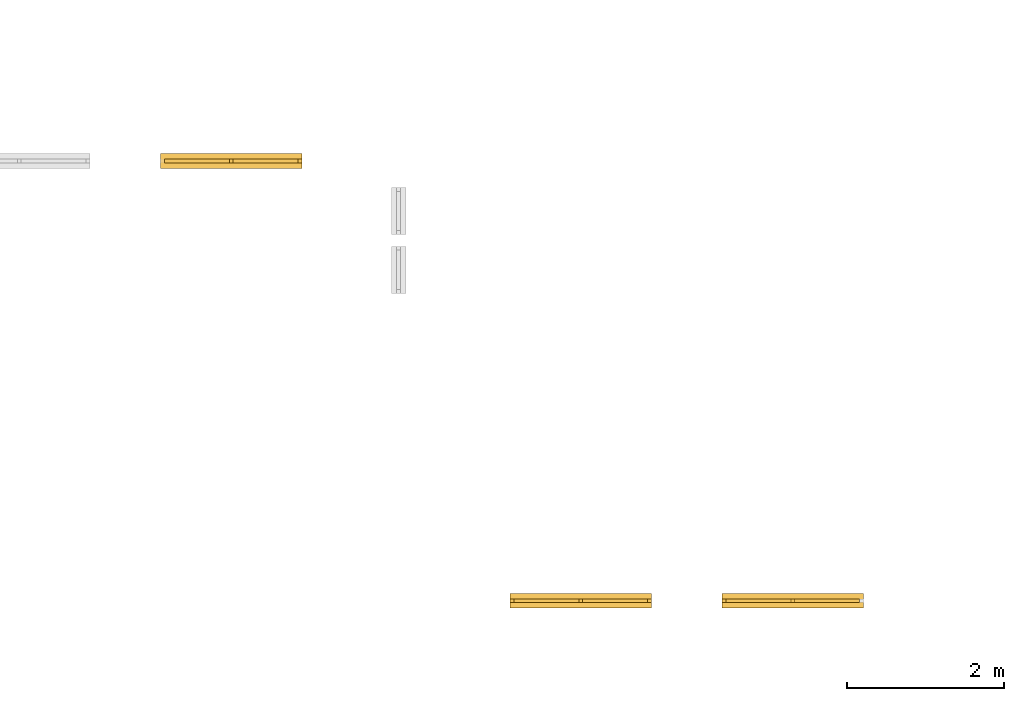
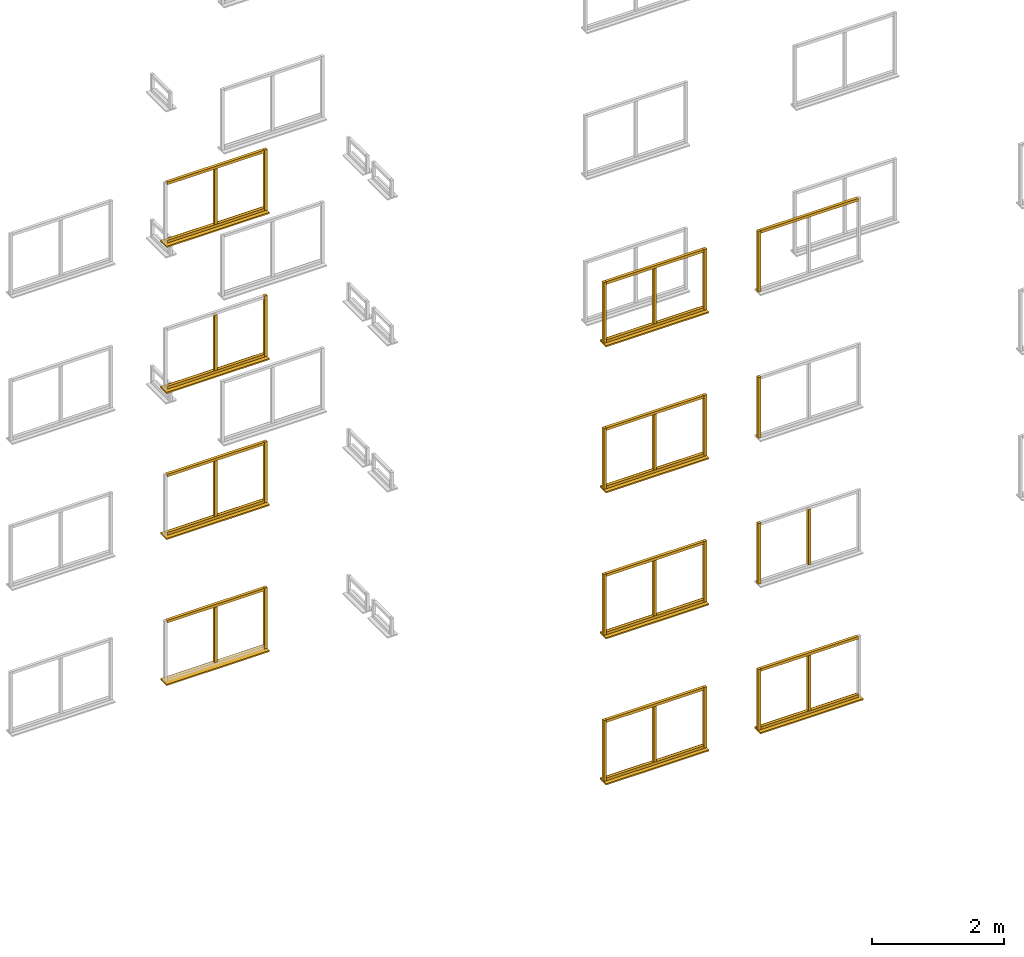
# Not in any storey, part 12 of 22: 52 windows.
"""IFC2X3 model written with IfcOpenShell, lengths in metres."""

from ifc_helpers import new_model, si_unit, frame, origin, place, context, project, faceted_brep, element, save


model = new_model("IFC2X3")

# Units and contexts
model_context = context("Model", 3, precision=1e-06, world=origin())
ifc_project = project(units=[si_unit("LENGTHUNIT", "METRE"), si_unit("PLANEANGLEUNIT", "RADIAN")], contexts=[model_context])

# Windows
placement = place(None, origin())
window_1_placement = place(placement, frame((43.72499999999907, -5.698422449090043, 3.725000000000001), z_axis=(0.0, 0.0, 1.0), x_axis=(1.0, 0.0, 0.0)))
element("IfcWindow", 1, at=window_1_placement, Name="leftFrame", context=model_context, shape_type="Brep", body=[
    faceted_brep([(0.0, 0.05, 0.0), (0.05, 0.05, 0.0), (0.05, 0.0, 0.0), (0.0, 0.0, 0.0), (0.05, 0.0, 1.125), (0.05, 0.05, 1.125), (0.0, 0.05, 1.125), (0.0, 0.0, 1.125), (0.0, 0.05, 0.0), (0.0, 0.0, 0.0), (0.0, 0.0, 1.125), (0.0, 0.05, 1.125), (0.05, 0.05, 0.0), (0.0, 0.05, 0.0), (0.0, 0.05, 1.125), (0.05, 0.05, 1.125), (0.05, 0.0, 0.0), (0.05, 0.05, 0.0), (0.05, 0.05, 1.125), (0.05, 0.0, 1.125), (0.0, 0.0, 0.0), (0.05, 0.0, 0.0), (0.05, 0.0, 1.125), (0.0, 0.0, 1.125)], [[[0, 1, 2, 3]], [[4, 5, 6, 7]], [[8, 9, 10, 11]], [[12, 13, 14, 15]], [[16, 17, 18, 19]], [[20, 21, 22, 23]]]),
])
window_2_placement = place(placement, frame((44.59999999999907, -5.698422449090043, 3.775000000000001), z_axis=(0.0, 0.0, 1.0), x_axis=(1.0, 0.0, 0.0)))
element("IfcWindow", 2, at=window_2_placement, Name="verticalBar", context=model_context, shape_type="Brep", body=[
    faceted_brep([(0.0, 0.05, 0.0), (0.05, 0.05, 0.0), (0.05, 0.0, 0.0), (0.0, 0.0, 0.0), (0.05, 0.0, 1.025), (0.05, 0.05, 1.025), (0.0, 0.05, 1.025), (0.0, 0.0, 1.025), (0.0, 0.05, 0.0), (0.0, 0.0, 0.0), (0.0, 0.0, 1.025), (0.0, 0.05, 1.025), (0.05, 0.05, 0.0), (0.0, 0.05, 0.0), (0.0, 0.05, 1.025), (0.05, 0.05, 1.025), (0.05, 0.0, 0.0), (0.05, 0.05, 0.0), (0.05, 0.05, 1.025), (0.05, 0.0, 1.025), (0.0, 0.0, 0.0), (0.05, 0.0, 0.0), (0.05, 0.0, 1.025), (0.0, 0.0, 1.025)], [[[0, 1, 2, 3]], [[4, 5, 6, 7]], [[8, 9, 10, 11]], [[12, 13, 14, 15]], [[16, 17, 18, 19]], [[20, 21, 22, 23]]]),
])
for number, where, z_axis, x_axis, name in (
    (3, (41.07499999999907, -5.698422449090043, 4.800000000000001), (0.0, 0.0, 1.0), (1.0, 0.0, 0.0), "topFrame"),
    (4, (41.07499999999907, -5.698422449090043, 3.725000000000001), (0.0, 0.0, 1.0), (1.0, 0.0, 0.0), "bottomFrame"),
):
    element("IfcWindow", number, at=place(placement, frame(where, z_axis=z_axis, x_axis=x_axis)), Name=name, context=model_context, shape_type="Brep", body=[
        faceted_brep([(0.0, 0.05, 0.0), (1.7, 0.05, 0.0), (1.7, 0.0, 0.0), (0.0, 0.0, 0.0), (1.7, 0.0, 0.05), (1.7, 0.05, 0.05), (0.0, 0.05, 0.05), (0.0, 0.0, 0.05), (0.0, 0.05, 0.0), (0.0, 0.0, 0.0), (0.0, 0.0, 0.05), (0.0, 0.05, 0.05), (1.7, 0.05, 0.0), (0.0, 0.05, 0.0), (0.0, 0.05, 0.05), (1.7, 0.05, 0.05), (1.7, 0.0, 0.0), (1.7, 0.05, 0.0), (1.7, 0.05, 0.05), (1.7, 0.0, 0.05), (0.0, 0.0, 0.0), (1.7, 0.0, 0.0), (1.7, 0.0, 0.05), (0.0, 0.0, 0.05)], [[[0, 1, 2, 3]], [[4, 5, 6, 7]], [[8, 9, 10, 11]], [[12, 13, 14, 15]], [[16, 17, 18, 19]], [[20, 21, 22, 23]]]),
    ])
window_3_placement = place(placement, frame((41.899999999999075, -5.698422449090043, 3.775000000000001), z_axis=(0.0, 0.0, 1.0), x_axis=(1.0, 0.0, 0.0)))
element("IfcWindow", 5, at=window_3_placement, Name="verticalBar", context=model_context, shape_type="Brep", body=[
    faceted_brep([(0.0, 0.05, 0.0), (0.05, 0.05, 0.0), (0.05, 0.0, 0.0), (0.0, 0.0, 0.0), (0.05, 0.0, 1.025), (0.05, 0.05, 1.025), (0.0, 0.05, 1.025), (0.0, 0.0, 1.025), (0.0, 0.05, 0.0), (0.0, 0.0, 0.0), (0.0, 0.0, 1.025), (0.0, 0.05, 1.025), (0.05, 0.05, 0.0), (0.0, 0.05, 0.0), (0.0, 0.05, 1.025), (0.05, 0.05, 1.025), (0.05, 0.0, 0.0), (0.05, 0.05, 0.0), (0.05, 0.05, 1.025), (0.05, 0.0, 1.025), (0.0, 0.0, 0.0), (0.05, 0.0, 0.0), (0.05, 0.0, 1.025), (0.0, 0.0, 1.025)], [[[0, 1, 2, 3]], [[4, 5, 6, 7]], [[8, 9, 10, 11]], [[12, 13, 14, 15]], [[16, 17, 18, 19]], [[20, 21, 22, 23]]]),
])
for number, where, z_axis, x_axis, name in (
    (6, (41.024999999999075, -5.698422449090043, 9.125000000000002), (0.0, 0.0, 1.0), (1.0, 0.0, 0.0), "leftFrame"),
    (7, (41.024999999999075, -5.698422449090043, 3.725000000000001), (0.0, 0.0, 1.0), (1.0, 0.0, 0.0), "leftFrame"),
):
    element("IfcWindow", number, at=place(placement, frame(where, z_axis=z_axis, x_axis=x_axis)), Name=name, context=model_context, shape_type="Brep", body=[
        faceted_brep([(0.0, 0.05, 0.0), (0.05, 0.05, 0.0), (0.05, 0.0, 0.0), (0.0, 0.0, 0.0), (0.05, 0.0, 1.125), (0.05, 0.05, 1.125), (0.0, 0.05, 1.125), (0.0, 0.0, 1.125), (0.0, 0.05, 0.0), (0.0, 0.0, 0.0), (0.0, 0.0, 1.125), (0.0, 0.05, 1.125), (0.05, 0.05, 0.0), (0.0, 0.05, 0.0), (0.0, 0.05, 1.125), (0.05, 0.05, 1.125), (0.05, 0.0, 0.0), (0.05, 0.05, 0.0), (0.05, 0.05, 1.125), (0.05, 0.0, 1.125), (0.0, 0.0, 0.0), (0.05, 0.0, 0.0), (0.05, 0.0, 1.125), (0.0, 0.0, 1.125)], [[[0, 1, 2, 3]], [[4, 5, 6, 7]], [[8, 9, 10, 11]], [[12, 13, 14, 15]], [[16, 17, 18, 19]], [[20, 21, 22, 23]]]),
    ])
window_4_placement = place(placement, frame((41.024999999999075, -5.766922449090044, 3.700000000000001), z_axis=(0.0, 0.0, 1.0), x_axis=(1.0, 0.0, 0.0)))
element("IfcWindow", 8, at=window_4_placement, Name="windowSill", context=model_context, shape_type="Brep", body=[
    faceted_brep([(0.0, 0.187, 0.0), (1.8, 0.187, 0.0), (1.8, 0.0, 0.0), (0.0, 0.0, 0.0), (1.8, 0.0, 0.025), (1.8, 0.187, 0.025), (0.0, 0.187, 0.025), (0.0, 0.0, 0.025), (0.0, 0.187, 0.0), (0.0, 0.0, 0.0), (0.0, 0.0, 0.025), (0.0, 0.187, 0.025), (1.8, 0.187, 0.0), (0.0, 0.187, 0.0), (0.0, 0.187, 0.025), (1.8, 0.187, 0.025), (1.8, 0.0, 0.0), (1.8, 0.187, 0.0), (1.8, 0.187, 0.025), (1.8, 0.0, 0.025), (0.0, 0.0, 0.0), (1.8, 0.0, 0.0), (1.8, 0.0, 0.025), (0.0, 0.0, 0.025)], [[[0, 1, 2, 3]], [[4, 5, 6, 7]], [[8, 9, 10, 11]], [[12, 13, 14, 15]], [[16, 17, 18, 19]], [[20, 21, 22, 23]]]),
])
window_5_placement = place(placement, frame((42.774999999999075, -5.698422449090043, 3.725000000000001), z_axis=(0.0, 0.0, 1.0), x_axis=(1.0, 0.0, 0.0)))
element("IfcWindow", 9, at=window_5_placement, Name="rightFrame", context=model_context, shape_type="Brep", body=[
    faceted_brep([(0.0, 0.05, 0.0), (0.05, 0.05, 0.0), (0.05, 0.0, 0.0), (0.0, 0.0, 0.0), (0.05, 0.0, 1.125), (0.05, 0.05, 1.125), (0.0, 0.05, 1.125), (0.0, 0.0, 1.125), (0.0, 0.05, 0.0), (0.0, 0.0, 0.0), (0.0, 0.0, 1.125), (0.0, 0.05, 1.125), (0.05, 0.05, 0.0), (0.0, 0.05, 0.0), (0.0, 0.05, 1.125), (0.05, 0.05, 1.125), (0.05, 0.0, 0.0), (0.05, 0.05, 0.0), (0.05, 0.05, 1.125), (0.05, 0.0, 1.125), (0.0, 0.0, 0.0), (0.05, 0.0, 0.0), (0.05, 0.0, 1.125), (0.0, 0.0, 1.125)], [[[0, 1, 2, 3]], [[4, 5, 6, 7]], [[8, 9, 10, 11]], [[12, 13, 14, 15]], [[16, 17, 18, 19]], [[20, 21, 22, 23]]]),
])
window_6_placement = place(placement, frame((44.59999999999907, -5.698422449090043, 1.075), z_axis=(0.0, 0.0, 1.0), x_axis=(1.0, 0.0, 0.0)))
element("IfcWindow", 10, at=window_6_placement, Name="verticalBar", context=model_context, shape_type="Brep", body=[
    faceted_brep([(0.0, 0.05, 0.0), (0.05, 0.05, 0.0), (0.05, 0.0, 0.0), (0.0, 0.0, 0.0), (0.05, 0.0, 1.025), (0.05, 0.05, 1.025), (0.0, 0.05, 1.025), (0.0, 0.0, 1.025), (0.0, 0.05, 0.0), (0.0, 0.0, 0.0), (0.0, 0.0, 1.025), (0.0, 0.05, 1.025), (0.05, 0.05, 0.0), (0.0, 0.05, 0.0), (0.0, 0.05, 1.025), (0.05, 0.05, 1.025), (0.05, 0.0, 0.0), (0.05, 0.05, 0.0), (0.05, 0.05, 1.025), (0.05, 0.0, 1.025), (0.0, 0.0, 0.0), (0.05, 0.0, 0.0), (0.05, 0.0, 1.025), (0.0, 0.0, 1.025)], [[[0, 1, 2, 3]], [[4, 5, 6, 7]], [[8, 9, 10, 11]], [[12, 13, 14, 15]], [[16, 17, 18, 19]], [[20, 21, 22, 23]]]),
])
window_7_placement = place(placement, frame((41.07499999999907, -5.698422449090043, 1.025), z_axis=(0.0, 0.0, 1.0), x_axis=(1.0, 0.0, 0.0)))
element("IfcWindow", 11, at=window_7_placement, Name="bottomFrame", context=model_context, shape_type="Brep", body=[
    faceted_brep([(0.0, 0.05, 0.0), (1.7, 0.05, 0.0), (1.7, 0.0, 0.0), (0.0, 0.0, 0.0), (1.7, 0.0, 0.05), (1.7, 0.05, 0.05), (0.0, 0.05, 0.05), (0.0, 0.0, 0.05), (0.0, 0.05, 0.0), (0.0, 0.0, 0.0), (0.0, 0.0, 0.05), (0.0, 0.05, 0.05), (1.7, 0.05, 0.0), (0.0, 0.05, 0.0), (0.0, 0.05, 0.05), (1.7, 0.05, 0.05), (1.7, 0.0, 0.0), (1.7, 0.05, 0.0), (1.7, 0.05, 0.05), (1.7, 0.0, 0.05), (0.0, 0.0, 0.0), (1.7, 0.0, 0.0), (1.7, 0.0, 0.05), (0.0, 0.0, 0.05)], [[[0, 1, 2, 3]], [[4, 5, 6, 7]], [[8, 9, 10, 11]], [[12, 13, 14, 15]], [[16, 17, 18, 19]], [[20, 21, 22, 23]]]),
])
for number, where, z_axis, x_axis, name in (
    (12, (41.024999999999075, -5.698422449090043, 1.025), (0.0, 0.0, 1.0), (1.0, 0.0, 0.0), "leftFrame"),
    (13, (42.774999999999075, -5.698422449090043, 1.025), (0.0, 0.0, 1.0), (1.0, 0.0, 0.0), "rightFrame"),
):
    element("IfcWindow", number, at=place(placement, frame(where, z_axis=z_axis, x_axis=x_axis)), Name=name, context=model_context, shape_type="Brep", body=[
        faceted_brep([(0.0, 0.05, 0.0), (0.05, 0.05, 0.0), (0.05, 0.0, 0.0), (0.0, 0.0, 0.0), (0.05, 0.0, 1.125), (0.05, 0.05, 1.125), (0.0, 0.05, 1.125), (0.0, 0.0, 1.125), (0.0, 0.05, 0.0), (0.0, 0.0, 0.0), (0.0, 0.0, 1.125), (0.0, 0.05, 1.125), (0.05, 0.05, 0.0), (0.0, 0.05, 0.0), (0.0, 0.05, 1.125), (0.05, 0.05, 1.125), (0.05, 0.0, 0.0), (0.05, 0.05, 0.0), (0.05, 0.05, 1.125), (0.05, 0.0, 1.125), (0.0, 0.0, 0.0), (0.05, 0.0, 0.0), (0.05, 0.0, 1.125), (0.0, 0.0, 1.125)], [[[0, 1, 2, 3]], [[4, 5, 6, 7]], [[8, 9, 10, 11]], [[12, 13, 14, 15]], [[16, 17, 18, 19]], [[20, 21, 22, 23]]]),
    ])
window_8_placement = place(placement, frame((41.024999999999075, -5.766922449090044, 1.0), z_axis=(0.0, 0.0, 1.0), x_axis=(1.0, 0.0, 0.0)))
element("IfcWindow", 14, at=window_8_placement, Name="windowSill", context=model_context, shape_type="Brep", body=[
    faceted_brep([(0.0, 0.187, 0.0), (1.8, 0.187, 0.0), (1.8, 0.0, 0.0), (0.0, 0.0, 0.0), (1.8, 0.0, 0.025), (1.8, 0.187, 0.025), (0.0, 0.187, 0.025), (0.0, 0.0, 0.025), (0.0, 0.187, 0.0), (0.0, 0.0, 0.0), (0.0, 0.0, 0.025), (0.0, 0.187, 0.025), (1.8, 0.187, 0.0), (0.0, 0.187, 0.0), (0.0, 0.187, 0.025), (1.8, 0.187, 0.025), (1.8, 0.0, 0.0), (1.8, 0.187, 0.0), (1.8, 0.187, 0.025), (1.8, 0.0, 0.025), (0.0, 0.0, 0.0), (1.8, 0.0, 0.0), (1.8, 0.0, 0.025), (0.0, 0.0, 0.025)], [[[0, 1, 2, 3]], [[4, 5, 6, 7]], [[8, 9, 10, 11]], [[12, 13, 14, 15]], [[16, 17, 18, 19]], [[20, 21, 22, 23]]]),
])
window_9_placement = place(placement, frame((41.899999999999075, -5.698422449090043, 1.075), z_axis=(0.0, 0.0, 1.0), x_axis=(1.0, 0.0, 0.0)))
element("IfcWindow", 15, at=window_9_placement, Name="verticalBar", context=model_context, shape_type="Brep", body=[
    faceted_brep([(0.0, 0.05, 0.0), (0.05, 0.05, 0.0), (0.05, 0.0, 0.0), (0.0, 0.0, 0.0), (0.05, 0.0, 1.025), (0.05, 0.05, 1.025), (0.0, 0.05, 1.025), (0.0, 0.0, 1.025), (0.0, 0.05, 0.0), (0.0, 0.0, 0.0), (0.0, 0.0, 1.025), (0.0, 0.05, 1.025), (0.05, 0.05, 0.0), (0.0, 0.05, 0.0), (0.0, 0.05, 1.025), (0.05, 0.05, 1.025), (0.05, 0.0, 0.0), (0.05, 0.05, 0.0), (0.05, 0.05, 1.025), (0.05, 0.0, 1.025), (0.0, 0.0, 0.0), (0.05, 0.0, 0.0), (0.05, 0.0, 1.025), (0.0, 0.0, 1.025)], [[[0, 1, 2, 3]], [[4, 5, 6, 7]], [[8, 9, 10, 11]], [[12, 13, 14, 15]], [[16, 17, 18, 19]], [[20, 21, 22, 23]]]),
])
for number, where, z_axis, x_axis, name in (
    (16, (41.07499999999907, -5.698422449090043, 2.100000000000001), (0.0, 0.0, 1.0), (1.0, 0.0, 0.0), "topFrame"),
    (17, (43.77499999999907, -5.698422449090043, 1.025), (0.0, 0.0, 1.0), (1.0, 0.0, 0.0), "bottomFrame"),
    (18, (43.77499999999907, -5.698422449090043, 2.100000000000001), (0.0, 0.0, 1.0), (1.0, 0.0, 0.0), "topFrame"),
):
    element("IfcWindow", number, at=place(placement, frame(where, z_axis=z_axis, x_axis=x_axis)), Name=name, context=model_context, shape_type="Brep", body=[
        faceted_brep([(0.0, 0.05, 0.0), (1.7, 0.05, 0.0), (1.7, 0.0, 0.0), (0.0, 0.0, 0.0), (1.7, 0.0, 0.05), (1.7, 0.05, 0.05), (0.0, 0.05, 0.05), (0.0, 0.0, 0.05), (0.0, 0.05, 0.0), (0.0, 0.0, 0.0), (0.0, 0.0, 0.05), (0.0, 0.05, 0.05), (1.7, 0.05, 0.0), (0.0, 0.05, 0.0), (0.0, 0.05, 0.05), (1.7, 0.05, 0.05), (1.7, 0.0, 0.0), (1.7, 0.05, 0.0), (1.7, 0.05, 0.05), (1.7, 0.0, 0.05), (0.0, 0.0, 0.0), (1.7, 0.0, 0.0), (1.7, 0.0, 0.05), (0.0, 0.0, 0.05)], [[[0, 1, 2, 3]], [[4, 5, 6, 7]], [[8, 9, 10, 11]], [[12, 13, 14, 15]], [[16, 17, 18, 19]], [[20, 21, 22, 23]]]),
    ])
window_10_placement = place(placement, frame((43.72499999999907, -5.698422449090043, 1.025), z_axis=(0.0, 0.0, 1.0), x_axis=(1.0, 0.0, 0.0)))
element("IfcWindow", 19, at=window_10_placement, Name="leftFrame", context=model_context, shape_type="Brep", body=[
    faceted_brep([(0.0, 0.05, 0.0), (0.05, 0.05, 0.0), (0.05, 0.0, 0.0), (0.0, 0.0, 0.0), (0.05, 0.0, 1.125), (0.05, 0.05, 1.125), (0.0, 0.05, 1.125), (0.0, 0.0, 1.125), (0.0, 0.05, 0.0), (0.0, 0.0, 0.0), (0.0, 0.0, 1.125), (0.0, 0.05, 1.125), (0.05, 0.05, 0.0), (0.0, 0.05, 0.0), (0.0, 0.05, 1.125), (0.05, 0.05, 1.125), (0.05, 0.0, 0.0), (0.05, 0.05, 0.0), (0.05, 0.05, 1.125), (0.05, 0.0, 1.125), (0.0, 0.0, 0.0), (0.05, 0.0, 0.0), (0.05, 0.0, 1.125), (0.0, 0.0, 1.125)], [[[0, 1, 2, 3]], [[4, 5, 6, 7]], [[8, 9, 10, 11]], [[12, 13, 14, 15]], [[16, 17, 18, 19]], [[20, 21, 22, 23]]]),
])
for number, where, z_axis, x_axis, name in (
    (20, (43.72499999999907, -5.766922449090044, 1.0), (0.0, 0.0, 1.0), (1.0, 0.0, 0.0), "windowSill"),
    (21, (36.57500054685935, -0.166751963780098, 6.4), (0.0, 0.0, 1.0), (1.0, 0.0, 0.0), "windowSill"),
):
    element("IfcWindow", number, at=place(placement, frame(where, z_axis=z_axis, x_axis=x_axis)), Name=name, context=model_context, shape_type="Brep", body=[
        faceted_brep([(0.0, 0.187, 0.0), (1.8, 0.187, 0.0), (1.8, 0.0, 0.0), (0.0, 0.0, 0.0), (1.8, 0.0, 0.025), (1.8, 0.187, 0.025), (0.0, 0.187, 0.025), (0.0, 0.0, 0.025), (0.0, 0.187, 0.0), (0.0, 0.0, 0.0), (0.0, 0.0, 0.025), (0.0, 0.187, 0.025), (1.8, 0.187, 0.0), (0.0, 0.187, 0.0), (0.0, 0.187, 0.025), (1.8, 0.187, 0.025), (1.8, 0.0, 0.0), (1.8, 0.187, 0.0), (1.8, 0.187, 0.025), (1.8, 0.0, 0.025), (0.0, 0.0, 0.0), (1.8, 0.0, 0.0), (1.8, 0.0, 0.025), (0.0, 0.0, 0.025)], [[[0, 1, 2, 3]], [[4, 5, 6, 7]], [[8, 9, 10, 11]], [[12, 13, 14, 15]], [[16, 17, 18, 19]], [[20, 21, 22, 23]]]),
    ])
window_11_placement = place(placement, frame((37.45000054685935, -0.098251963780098, 6.475000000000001), z_axis=(0.0, 0.0, 1.0), x_axis=(1.0, 0.0, 0.0)))
element("IfcWindow", 22, at=window_11_placement, Name="verticalBar", context=model_context, shape_type="Brep", body=[
    faceted_brep([(0.0, 0.05, 0.0), (0.05, 0.05, 0.0), (0.05, 0.0, 0.0), (0.0, 0.0, 0.0), (0.05, 0.0, 1.025), (0.05, 0.05, 1.025), (0.0, 0.05, 1.025), (0.0, 0.0, 1.025), (0.0, 0.05, 0.0), (0.0, 0.0, 0.0), (0.0, 0.0, 1.025), (0.0, 0.05, 1.025), (0.05, 0.05, 0.0), (0.0, 0.05, 0.0), (0.0, 0.05, 1.025), (0.05, 0.05, 1.025), (0.05, 0.0, 0.0), (0.05, 0.05, 0.0), (0.05, 0.05, 1.025), (0.05, 0.0, 1.025), (0.0, 0.0, 0.0), (0.05, 0.0, 0.0), (0.05, 0.0, 1.025), (0.0, 0.0, 1.025)], [[[0, 1, 2, 3]], [[4, 5, 6, 7]], [[8, 9, 10, 11]], [[12, 13, 14, 15]], [[16, 17, 18, 19]], [[20, 21, 22, 23]]]),
])
window_12_placement = place(placement, frame((38.32500054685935, -0.098251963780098, 6.425000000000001), z_axis=(0.0, 0.0, 1.0), x_axis=(1.0, 0.0, 0.0)))
element("IfcWindow", 23, at=window_12_placement, Name="rightFrame", context=model_context, shape_type="Brep", body=[
    faceted_brep([(0.0, 0.05, 0.0), (0.05, 0.05, 0.0), (0.05, 0.0, 0.0), (0.0, 0.0, 0.0), (0.05, 0.0, 1.125), (0.05, 0.05, 1.125), (0.0, 0.05, 1.125), (0.0, 0.0, 1.125), (0.0, 0.05, 0.0), (0.0, 0.0, 0.0), (0.0, 0.0, 1.125), (0.0, 0.05, 1.125), (0.05, 0.05, 0.0), (0.0, 0.05, 0.0), (0.0, 0.05, 1.125), (0.05, 0.05, 1.125), (0.05, 0.0, 0.0), (0.05, 0.05, 0.0), (0.05, 0.05, 1.125), (0.05, 0.0, 1.125), (0.0, 0.0, 0.0), (0.05, 0.0, 0.0), (0.05, 0.0, 1.125), (0.0, 0.0, 1.125)], [[[0, 1, 2, 3]], [[4, 5, 6, 7]], [[8, 9, 10, 11]], [[12, 13, 14, 15]], [[16, 17, 18, 19]], [[20, 21, 22, 23]]]),
])
for number, where, z_axis, x_axis, name in (
    (24, (36.62500054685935, -0.098251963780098, 6.425000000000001), (0.0, 0.0, 1.0), (1.0, 0.0, 0.0), "bottomFrame"),
    (25, (36.62500054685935, -0.098251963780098, 9.125000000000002), (0.0, 0.0, 1.0), (1.0, 0.0, 0.0), "bottomFrame"),
    (26, (36.62500054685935, -0.098251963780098, 10.200000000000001), (0.0, 0.0, 1.0), (1.0, 0.0, 0.0), "topFrame"),
):
    element("IfcWindow", number, at=place(placement, frame(where, z_axis=z_axis, x_axis=x_axis)), Name=name, context=model_context, shape_type="Brep", body=[
        faceted_brep([(0.0, 0.05, 0.0), (1.7, 0.05, 0.0), (1.7, 0.0, 0.0), (0.0, 0.0, 0.0), (1.7, 0.0, 0.05), (1.7, 0.05, 0.05), (0.0, 0.05, 0.05), (0.0, 0.0, 0.05), (0.0, 0.05, 0.0), (0.0, 0.0, 0.0), (0.0, 0.0, 0.05), (0.0, 0.05, 0.05), (1.7, 0.05, 0.0), (0.0, 0.05, 0.0), (0.0, 0.05, 0.05), (1.7, 0.05, 0.05), (1.7, 0.0, 0.0), (1.7, 0.05, 0.0), (1.7, 0.05, 0.05), (1.7, 0.0, 0.05), (0.0, 0.0, 0.0), (1.7, 0.0, 0.0), (1.7, 0.0, 0.05), (0.0, 0.0, 0.05)], [[[0, 1, 2, 3]], [[4, 5, 6, 7]], [[8, 9, 10, 11]], [[12, 13, 14, 15]], [[16, 17, 18, 19]], [[20, 21, 22, 23]]]),
    ])
window_13_placement = place(placement, frame((38.32500054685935, -0.098251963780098, 9.125000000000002), z_axis=(0.0, 0.0, 1.0), x_axis=(1.0, 0.0, 0.0)))
element("IfcWindow", 27, at=window_13_placement, Name="rightFrame", context=model_context, shape_type="Brep", body=[
    faceted_brep([(0.0, 0.05, 0.0), (0.05, 0.05, 0.0), (0.05, 0.0, 0.0), (0.0, 0.0, 0.0), (0.05, 0.0, 1.125), (0.05, 0.05, 1.125), (0.0, 0.05, 1.125), (0.0, 0.0, 1.125), (0.0, 0.05, 0.0), (0.0, 0.0, 0.0), (0.0, 0.0, 1.125), (0.0, 0.05, 1.125), (0.05, 0.05, 0.0), (0.0, 0.05, 0.0), (0.0, 0.05, 1.125), (0.05, 0.05, 1.125), (0.05, 0.0, 0.0), (0.05, 0.05, 0.0), (0.05, 0.05, 1.125), (0.05, 0.0, 1.125), (0.0, 0.0, 0.0), (0.05, 0.0, 0.0), (0.05, 0.0, 1.125), (0.0, 0.0, 1.125)], [[[0, 1, 2, 3]], [[4, 5, 6, 7]], [[8, 9, 10, 11]], [[12, 13, 14, 15]], [[16, 17, 18, 19]], [[20, 21, 22, 23]]]),
])
for number, where, z_axis, x_axis, name in (
    (28, (36.57500054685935, -0.166751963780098, 9.100000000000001), (0.0, 0.0, 1.0), (1.0, 0.0, 0.0), "windowSill"),
    (29, (41.024999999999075, -5.766922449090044, 9.100000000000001), (0.0, 0.0, 1.0), (1.0, 0.0, 0.0), "windowSill"),
):
    element("IfcWindow", number, at=place(placement, frame(where, z_axis=z_axis, x_axis=x_axis)), Name=name, context=model_context, shape_type="Brep", body=[
        faceted_brep([(0.0, 0.187, 0.0), (1.8, 0.187, 0.0), (1.8, 0.0, 0.0), (0.0, 0.0, 0.0), (1.8, 0.0, 0.025), (1.8, 0.187, 0.025), (0.0, 0.187, 0.025), (0.0, 0.0, 0.025), (0.0, 0.187, 0.0), (0.0, 0.0, 0.0), (0.0, 0.0, 0.025), (0.0, 0.187, 0.025), (1.8, 0.187, 0.0), (0.0, 0.187, 0.0), (0.0, 0.187, 0.025), (1.8, 0.187, 0.025), (1.8, 0.0, 0.0), (1.8, 0.187, 0.0), (1.8, 0.187, 0.025), (1.8, 0.0, 0.025), (0.0, 0.0, 0.0), (1.8, 0.0, 0.0), (1.8, 0.0, 0.025), (0.0, 0.0, 0.025)], [[[0, 1, 2, 3]], [[4, 5, 6, 7]], [[8, 9, 10, 11]], [[12, 13, 14, 15]], [[16, 17, 18, 19]], [[20, 21, 22, 23]]]),
    ])
window_14_placement = place(placement, frame((37.45000054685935, -0.098251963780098, 1.075), z_axis=(0.0, 0.0, 1.0), x_axis=(1.0, 0.0, 0.0)))
element("IfcWindow", 30, at=window_14_placement, Name="verticalBar", context=model_context, shape_type="Brep", body=[
    faceted_brep([(0.0, 0.05, 0.0), (0.05, 0.05, 0.0), (0.05, 0.0, 0.0), (0.0, 0.0, 0.0), (0.05, 0.0, 1.025), (0.05, 0.05, 1.025), (0.0, 0.05, 1.025), (0.0, 0.0, 1.025), (0.0, 0.05, 0.0), (0.0, 0.0, 0.0), (0.0, 0.0, 1.025), (0.0, 0.05, 1.025), (0.05, 0.05, 0.0), (0.0, 0.05, 0.0), (0.0, 0.05, 1.025), (0.05, 0.05, 1.025), (0.05, 0.0, 0.0), (0.05, 0.05, 0.0), (0.05, 0.05, 1.025), (0.05, 0.0, 1.025), (0.0, 0.0, 0.0), (0.05, 0.0, 0.0), (0.05, 0.0, 1.025), (0.0, 0.0, 1.025)], [[[0, 1, 2, 3]], [[4, 5, 6, 7]], [[8, 9, 10, 11]], [[12, 13, 14, 15]], [[16, 17, 18, 19]], [[20, 21, 22, 23]]]),
])
for number, where, z_axis, x_axis, name in (
    (31, (36.62500054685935, -0.098251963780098, 3.725), (0.0, 0.0, 1.0), (1.0, 0.0, 0.0), "bottomFrame"),
    (32, (36.62500054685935, -0.098251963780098, 4.8), (0.0, 0.0, 1.0), (1.0, 0.0, 0.0), "topFrame"),
):
    element("IfcWindow", number, at=place(placement, frame(where, z_axis=z_axis, x_axis=x_axis)), Name=name, context=model_context, shape_type="Brep", body=[
        faceted_brep([(0.0, 0.05, 0.0), (1.7, 0.05, 0.0), (1.7, 0.0, 0.0), (0.0, 0.0, 0.0), (1.7, 0.0, 0.05), (1.7, 0.05, 0.05), (0.0, 0.05, 0.05), (0.0, 0.0, 0.05), (0.0, 0.05, 0.0), (0.0, 0.0, 0.0), (0.0, 0.0, 0.05), (0.0, 0.05, 0.05), (1.7, 0.05, 0.0), (0.0, 0.05, 0.0), (0.0, 0.05, 0.05), (1.7, 0.05, 0.05), (1.7, 0.0, 0.0), (1.7, 0.05, 0.0), (1.7, 0.05, 0.05), (1.7, 0.0, 0.05), (0.0, 0.0, 0.0), (1.7, 0.0, 0.0), (1.7, 0.0, 0.05), (0.0, 0.0, 0.05)], [[[0, 1, 2, 3]], [[4, 5, 6, 7]], [[8, 9, 10, 11]], [[12, 13, 14, 15]], [[16, 17, 18, 19]], [[20, 21, 22, 23]]]),
    ])
window_15_placement = place(placement, frame((38.32500054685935, -0.098251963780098, 3.725), z_axis=(0.0, 0.0, 1.0), x_axis=(1.0, 0.0, 0.0)))
element("IfcWindow", 33, at=window_15_placement, Name="rightFrame", context=model_context, shape_type="Brep", body=[
    faceted_brep([(0.0, 0.05, 0.0), (0.05, 0.05, 0.0), (0.05, 0.0, 0.0), (0.0, 0.0, 0.0), (0.05, 0.0, 1.125), (0.05, 0.05, 1.125), (0.0, 0.05, 1.125), (0.0, 0.0, 1.125), (0.0, 0.05, 0.0), (0.0, 0.0, 0.0), (0.0, 0.0, 1.125), (0.0, 0.05, 1.125), (0.05, 0.05, 0.0), (0.0, 0.05, 0.0), (0.0, 0.05, 1.125), (0.05, 0.05, 1.125), (0.05, 0.0, 0.0), (0.05, 0.05, 0.0), (0.05, 0.05, 1.125), (0.05, 0.0, 1.125), (0.0, 0.0, 0.0), (0.05, 0.0, 0.0), (0.05, 0.0, 1.125), (0.0, 0.0, 1.125)], [[[0, 1, 2, 3]], [[4, 5, 6, 7]], [[8, 9, 10, 11]], [[12, 13, 14, 15]], [[16, 17, 18, 19]], [[20, 21, 22, 23]]]),
])
window_16_placement = place(placement, frame((36.57500054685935, -0.166751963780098, 3.7), z_axis=(0.0, 0.0, 1.0), x_axis=(1.0, 0.0, 0.0)))
element("IfcWindow", 34, at=window_16_placement, Name="windowSill", context=model_context, shape_type="Brep", body=[
    faceted_brep([(0.0, 0.187, 0.0), (1.8, 0.187, 0.0), (1.8, 0.0, 0.0), (0.0, 0.0, 0.0), (1.8, 0.0, 0.025), (1.8, 0.187, 0.025), (0.0, 0.187, 0.025), (0.0, 0.0, 0.025), (0.0, 0.187, 0.0), (0.0, 0.0, 0.0), (0.0, 0.0, 0.025), (0.0, 0.187, 0.025), (1.8, 0.187, 0.0), (0.0, 0.187, 0.0), (0.0, 0.187, 0.025), (1.8, 0.187, 0.025), (1.8, 0.0, 0.0), (1.8, 0.187, 0.0), (1.8, 0.187, 0.025), (1.8, 0.0, 0.025), (0.0, 0.0, 0.0), (1.8, 0.0, 0.0), (1.8, 0.0, 0.025), (0.0, 0.0, 0.025)], [[[0, 1, 2, 3]], [[4, 5, 6, 7]], [[8, 9, 10, 11]], [[12, 13, 14, 15]], [[16, 17, 18, 19]], [[20, 21, 22, 23]]]),
])
window_17_placement = place(placement, frame((37.45000054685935, -0.098251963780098, 3.775), z_axis=(0.0, 0.0, 1.0), x_axis=(1.0, 0.0, 0.0)))
element("IfcWindow", 35, at=window_17_placement, Name="verticalBar", context=model_context, shape_type="Brep", body=[
    faceted_brep([(0.0, 0.05, 0.0), (0.05, 0.05, 0.0), (0.05, 0.0, 0.0), (0.0, 0.0, 0.0), (0.05, 0.0, 1.025), (0.05, 0.05, 1.025), (0.0, 0.05, 1.025), (0.0, 0.0, 1.025), (0.0, 0.05, 0.0), (0.0, 0.0, 0.0), (0.0, 0.0, 1.025), (0.0, 0.05, 1.025), (0.05, 0.05, 0.0), (0.0, 0.05, 0.0), (0.0, 0.05, 1.025), (0.05, 0.05, 1.025), (0.05, 0.0, 0.0), (0.05, 0.05, 0.0), (0.05, 0.05, 1.025), (0.05, 0.0, 1.025), (0.0, 0.0, 0.0), (0.05, 0.0, 0.0), (0.05, 0.0, 1.025), (0.0, 0.0, 1.025)], [[[0, 1, 2, 3]], [[4, 5, 6, 7]], [[8, 9, 10, 11]], [[12, 13, 14, 15]], [[16, 17, 18, 19]], [[20, 21, 22, 23]]]),
])
window_18_placement = place(placement, frame((42.774999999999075, -5.698422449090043, 9.125000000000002), z_axis=(0.0, 0.0, 1.0), x_axis=(1.0, 0.0, 0.0)))
element("IfcWindow", 36, at=window_18_placement, Name="rightFrame", context=model_context, shape_type="Brep", body=[
    faceted_brep([(0.0, 0.05, 0.0), (0.05, 0.05, 0.0), (0.05, 0.0, 0.0), (0.0, 0.0, 0.0), (0.05, 0.0, 1.125), (0.05, 0.05, 1.125), (0.0, 0.05, 1.125), (0.0, 0.0, 1.125), (0.0, 0.05, 0.0), (0.0, 0.0, 0.0), (0.0, 0.0, 1.125), (0.0, 0.05, 1.125), (0.05, 0.05, 0.0), (0.0, 0.05, 0.0), (0.0, 0.05, 1.125), (0.05, 0.05, 1.125), (0.05, 0.0, 0.0), (0.05, 0.05, 0.0), (0.05, 0.05, 1.125), (0.05, 0.0, 1.125), (0.0, 0.0, 0.0), (0.05, 0.0, 0.0), (0.05, 0.0, 1.125), (0.0, 0.0, 1.125)], [[[0, 1, 2, 3]], [[4, 5, 6, 7]], [[8, 9, 10, 11]], [[12, 13, 14, 15]], [[16, 17, 18, 19]], [[20, 21, 22, 23]]]),
])
window_19_placement = place(placement, frame((41.899999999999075, -5.698422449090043, 9.175), z_axis=(0.0, 0.0, 1.0), x_axis=(1.0, 0.0, 0.0)))
element("IfcWindow", 37, at=window_19_placement, Name="verticalBar", context=model_context, shape_type="Brep", body=[
    faceted_brep([(0.0, 0.05, 0.0), (0.05, 0.05, 0.0), (0.05, 0.0, 0.0), (0.0, 0.0, 0.0), (0.05, 0.0, 1.025), (0.05, 0.05, 1.025), (0.0, 0.05, 1.025), (0.0, 0.0, 1.025), (0.0, 0.05, 0.0), (0.0, 0.0, 0.0), (0.0, 0.0, 1.025), (0.0, 0.05, 1.025), (0.05, 0.05, 0.0), (0.0, 0.05, 0.0), (0.0, 0.05, 1.025), (0.05, 0.05, 1.025), (0.05, 0.0, 0.0), (0.05, 0.05, 0.0), (0.05, 0.05, 1.025), (0.05, 0.0, 1.025), (0.0, 0.0, 0.0), (0.05, 0.0, 0.0), (0.05, 0.0, 1.025), (0.0, 0.0, 1.025)], [[[0, 1, 2, 3]], [[4, 5, 6, 7]], [[8, 9, 10, 11]], [[12, 13, 14, 15]], [[16, 17, 18, 19]], [[20, 21, 22, 23]]]),
])
window_20_placement = place(placement, frame((36.62500054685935, -0.098251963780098, 2.1), z_axis=(0.0, 0.0, 1.0), x_axis=(1.0, 0.0, 0.0)))
element("IfcWindow", 38, at=window_20_placement, Name="topFrame", context=model_context, shape_type="Brep", body=[
    faceted_brep([(0.0, 0.05, 0.0), (1.7, 0.05, 0.0), (1.7, 0.0, 0.0), (0.0, 0.0, 0.0), (1.7, 0.0, 0.05), (1.7, 0.05, 0.05), (0.0, 0.05, 0.05), (0.0, 0.0, 0.05), (0.0, 0.05, 0.0), (0.0, 0.0, 0.0), (0.0, 0.0, 0.05), (0.0, 0.05, 0.05), (1.7, 0.05, 0.0), (0.0, 0.05, 0.0), (0.0, 0.05, 0.05), (1.7, 0.05, 0.05), (1.7, 0.0, 0.0), (1.7, 0.05, 0.0), (1.7, 0.05, 0.05), (1.7, 0.0, 0.05), (0.0, 0.0, 0.0), (1.7, 0.0, 0.0), (1.7, 0.0, 0.05), (0.0, 0.0, 0.05)], [[[0, 1, 2, 3]], [[4, 5, 6, 7]], [[8, 9, 10, 11]], [[12, 13, 14, 15]], [[16, 17, 18, 19]], [[20, 21, 22, 23]]]),
])
window_21_placement = place(placement, frame((38.32500054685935, -0.098251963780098, 1.025), z_axis=(0.0, 0.0, 1.0), x_axis=(1.0, 0.0, 0.0)))
element("IfcWindow", 39, at=window_21_placement, Name="rightFrame", context=model_context, shape_type="Brep", body=[
    faceted_brep([(0.0, 0.05, 0.0), (0.05, 0.05, 0.0), (0.05, 0.0, 0.0), (0.0, 0.0, 0.0), (0.05, 0.0, 1.125), (0.05, 0.05, 1.125), (0.0, 0.05, 1.125), (0.0, 0.0, 1.125), (0.0, 0.05, 0.0), (0.0, 0.0, 0.0), (0.0, 0.0, 1.125), (0.0, 0.05, 1.125), (0.05, 0.05, 0.0), (0.0, 0.05, 0.0), (0.0, 0.05, 1.125), (0.05, 0.05, 1.125), (0.05, 0.0, 0.0), (0.05, 0.05, 0.0), (0.05, 0.05, 1.125), (0.05, 0.0, 1.125), (0.0, 0.0, 0.0), (0.05, 0.0, 0.0), (0.05, 0.0, 1.125), (0.0, 0.0, 1.125)], [[[0, 1, 2, 3]], [[4, 5, 6, 7]], [[8, 9, 10, 11]], [[12, 13, 14, 15]], [[16, 17, 18, 19]], [[20, 21, 22, 23]]]),
])
for number, where, z_axis, x_axis, name in (
    (40, (36.57500054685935, -0.166751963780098, 1.0), (0.0, 0.0, 1.0), (1.0, 0.0, 0.0), "windowSill"),
    (41, (41.024999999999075, -5.766922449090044, 6.400000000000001), (0.0, 0.0, 1.0), (1.0, 0.0, 0.0), "windowSill"),
):
    element("IfcWindow", number, at=place(placement, frame(where, z_axis=z_axis, x_axis=x_axis)), Name=name, context=model_context, shape_type="Brep", body=[
        faceted_brep([(0.0, 0.187, 0.0), (1.8, 0.187, 0.0), (1.8, 0.0, 0.0), (0.0, 0.0, 0.0), (1.8, 0.0, 0.025), (1.8, 0.187, 0.025), (0.0, 0.187, 0.025), (0.0, 0.0, 0.025), (0.0, 0.187, 0.0), (0.0, 0.0, 0.0), (0.0, 0.0, 0.025), (0.0, 0.187, 0.025), (1.8, 0.187, 0.0), (0.0, 0.187, 0.0), (0.0, 0.187, 0.025), (1.8, 0.187, 0.025), (1.8, 0.0, 0.0), (1.8, 0.187, 0.0), (1.8, 0.187, 0.025), (1.8, 0.0, 0.025), (0.0, 0.0, 0.0), (1.8, 0.0, 0.0), (1.8, 0.0, 0.025), (0.0, 0.0, 0.025)], [[[0, 1, 2, 3]], [[4, 5, 6, 7]], [[8, 9, 10, 11]], [[12, 13, 14, 15]], [[16, 17, 18, 19]], [[20, 21, 22, 23]]]),
    ])
for number, where, z_axis, x_axis, name in (
    (42, (43.77499999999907, -5.698422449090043, 10.200000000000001), (0.0, 0.0, 1.0), (1.0, 0.0, 0.0), "topFrame"),
    (43, (41.07499999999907, -5.698422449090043, 10.200000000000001), (0.0, 0.0, 1.0), (1.0, 0.0, 0.0), "topFrame"),
    (44, (41.07499999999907, -5.698422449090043, 9.125000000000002), (0.0, 0.0, 1.0), (1.0, 0.0, 0.0), "bottomFrame"),
):
    element("IfcWindow", number, at=place(placement, frame(where, z_axis=z_axis, x_axis=x_axis)), Name=name, context=model_context, shape_type="Brep", body=[
        faceted_brep([(0.0, 0.05, 0.0), (1.7, 0.05, 0.0), (1.7, 0.0, 0.0), (0.0, 0.0, 0.0), (1.7, 0.0, 0.05), (1.7, 0.05, 0.05), (0.0, 0.05, 0.05), (0.0, 0.0, 0.05), (0.0, 0.05, 0.0), (0.0, 0.0, 0.0), (0.0, 0.0, 0.05), (0.0, 0.05, 0.05), (1.7, 0.05, 0.0), (0.0, 0.05, 0.0), (0.0, 0.05, 0.05), (1.7, 0.05, 0.05), (1.7, 0.0, 0.0), (1.7, 0.05, 0.0), (1.7, 0.05, 0.05), (1.7, 0.0, 0.05), (0.0, 0.0, 0.0), (1.7, 0.0, 0.0), (1.7, 0.0, 0.05), (0.0, 0.0, 0.05)], [[[0, 1, 2, 3]], [[4, 5, 6, 7]], [[8, 9, 10, 11]], [[12, 13, 14, 15]], [[16, 17, 18, 19]], [[20, 21, 22, 23]]]),
    ])
window_22_placement = place(placement, frame((43.72499999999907, -5.698422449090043, 9.125000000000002), z_axis=(0.0, 0.0, 1.0), x_axis=(1.0, 0.0, 0.0)))
element("IfcWindow", 45, at=window_22_placement, Name="leftFrame", context=model_context, shape_type="Brep", body=[
    faceted_brep([(0.0, 0.05, 0.0), (0.05, 0.05, 0.0), (0.05, 0.0, 0.0), (0.0, 0.0, 0.0), (0.05, 0.0, 1.125), (0.05, 0.05, 1.125), (0.0, 0.05, 1.125), (0.0, 0.0, 1.125), (0.0, 0.05, 0.0), (0.0, 0.0, 0.0), (0.0, 0.0, 1.125), (0.0, 0.05, 1.125), (0.05, 0.05, 0.0), (0.0, 0.05, 0.0), (0.0, 0.05, 1.125), (0.05, 0.05, 1.125), (0.05, 0.0, 0.0), (0.05, 0.05, 0.0), (0.05, 0.05, 1.125), (0.05, 0.0, 1.125), (0.0, 0.0, 0.0), (0.05, 0.0, 0.0), (0.05, 0.0, 1.125), (0.0, 0.0, 1.125)], [[[0, 1, 2, 3]], [[4, 5, 6, 7]], [[8, 9, 10, 11]], [[12, 13, 14, 15]], [[16, 17, 18, 19]], [[20, 21, 22, 23]]]),
])
window_23_placement = place(placement, frame((41.07499999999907, -5.698422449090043, 6.425000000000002), z_axis=(0.0, 0.0, 1.0), x_axis=(1.0, 0.0, 0.0)))
element("IfcWindow", 46, at=window_23_placement, Name="bottomFrame", context=model_context, shape_type="Brep", body=[
    faceted_brep([(0.0, 0.05, 0.0), (1.7, 0.05, 0.0), (1.7, 0.0, 0.0), (0.0, 0.0, 0.0), (1.7, 0.0, 0.05), (1.7, 0.05, 0.05), (0.0, 0.05, 0.05), (0.0, 0.0, 0.05), (0.0, 0.05, 0.0), (0.0, 0.0, 0.0), (0.0, 0.0, 0.05), (0.0, 0.05, 0.05), (1.7, 0.05, 0.0), (0.0, 0.05, 0.0), (0.0, 0.05, 0.05), (1.7, 0.05, 0.05), (1.7, 0.0, 0.0), (1.7, 0.05, 0.0), (1.7, 0.05, 0.05), (1.7, 0.0, 0.05), (0.0, 0.0, 0.0), (1.7, 0.0, 0.0), (1.7, 0.0, 0.05), (0.0, 0.0, 0.05)], [[[0, 1, 2, 3]], [[4, 5, 6, 7]], [[8, 9, 10, 11]], [[12, 13, 14, 15]], [[16, 17, 18, 19]], [[20, 21, 22, 23]]]),
])
for number, where, z_axis, x_axis, name in (
    (47, (43.72499999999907, -5.698422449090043, 6.425000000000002), (0.0, 0.0, 1.0), (1.0, 0.0, 0.0), "leftFrame"),
    (48, (41.024999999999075, -5.698422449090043, 6.425000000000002), (0.0, 0.0, 1.0), (1.0, 0.0, 0.0), "leftFrame"),
):
    element("IfcWindow", number, at=place(placement, frame(where, z_axis=z_axis, x_axis=x_axis)), Name=name, context=model_context, shape_type="Brep", body=[
        faceted_brep([(0.0, 0.05, 0.0), (0.05, 0.05, 0.0), (0.05, 0.0, 0.0), (0.0, 0.0, 0.0), (0.05, 0.0, 1.125), (0.05, 0.05, 1.125), (0.0, 0.05, 1.125), (0.0, 0.0, 1.125), (0.0, 0.05, 0.0), (0.0, 0.0, 0.0), (0.0, 0.0, 1.125), (0.0, 0.05, 1.125), (0.05, 0.05, 0.0), (0.0, 0.05, 0.0), (0.0, 0.05, 1.125), (0.05, 0.05, 1.125), (0.05, 0.0, 0.0), (0.05, 0.05, 0.0), (0.05, 0.05, 1.125), (0.05, 0.0, 1.125), (0.0, 0.0, 0.0), (0.05, 0.0, 0.0), (0.05, 0.0, 1.125), (0.0, 0.0, 1.125)], [[[0, 1, 2, 3]], [[4, 5, 6, 7]], [[8, 9, 10, 11]], [[12, 13, 14, 15]], [[16, 17, 18, 19]], [[20, 21, 22, 23]]]),
    ])
window_24_placement = place(placement, frame((41.07499999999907, -5.698422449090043, 7.500000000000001), z_axis=(0.0, 0.0, 1.0), x_axis=(1.0, 0.0, 0.0)))
element("IfcWindow", 49, at=window_24_placement, Name="topFrame", context=model_context, shape_type="Brep", body=[
    faceted_brep([(0.0, 0.05, 0.0), (1.7, 0.05, 0.0), (1.7, 0.0, 0.0), (0.0, 0.0, 0.0), (1.7, 0.0, 0.05), (1.7, 0.05, 0.05), (0.0, 0.05, 0.05), (0.0, 0.0, 0.05), (0.0, 0.05, 0.0), (0.0, 0.0, 0.0), (0.0, 0.0, 0.05), (0.0, 0.05, 0.05), (1.7, 0.05, 0.0), (0.0, 0.05, 0.0), (0.0, 0.05, 0.05), (1.7, 0.05, 0.05), (1.7, 0.0, 0.0), (1.7, 0.05, 0.0), (1.7, 0.05, 0.05), (1.7, 0.0, 0.05), (0.0, 0.0, 0.0), (1.7, 0.0, 0.0), (1.7, 0.0, 0.05), (0.0, 0.0, 0.05)], [[[0, 1, 2, 3]], [[4, 5, 6, 7]], [[8, 9, 10, 11]], [[12, 13, 14, 15]], [[16, 17, 18, 19]], [[20, 21, 22, 23]]]),
])
for number, where, z_axis, x_axis, name in (
    (50, (37.45000054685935, -0.098251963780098, 9.175), (0.0, 0.0, 1.0), (1.0, 0.0, 0.0), "verticalBar"),
    (51, (41.899999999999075, -5.698422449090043, 6.475000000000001), (0.0, 0.0, 1.0), (1.0, 0.0, 0.0), "verticalBar"),
):
    element("IfcWindow", number, at=place(placement, frame(where, z_axis=z_axis, x_axis=x_axis)), Name=name, context=model_context, shape_type="Brep", body=[
        faceted_brep([(0.0, 0.05, 0.0), (0.05, 0.05, 0.0), (0.05, 0.0, 0.0), (0.0, 0.0, 0.0), (0.05, 0.0, 1.025), (0.05, 0.05, 1.025), (0.0, 0.05, 1.025), (0.0, 0.0, 1.025), (0.0, 0.05, 0.0), (0.0, 0.0, 0.0), (0.0, 0.0, 1.025), (0.0, 0.05, 1.025), (0.05, 0.05, 0.0), (0.0, 0.05, 0.0), (0.0, 0.05, 1.025), (0.05, 0.05, 1.025), (0.05, 0.0, 0.0), (0.05, 0.05, 0.0), (0.05, 0.05, 1.025), (0.05, 0.0, 1.025), (0.0, 0.0, 0.0), (0.05, 0.0, 0.0), (0.05, 0.0, 1.025), (0.0, 0.0, 1.025)], [[[0, 1, 2, 3]], [[4, 5, 6, 7]], [[8, 9, 10, 11]], [[12, 13, 14, 15]], [[16, 17, 18, 19]], [[20, 21, 22, 23]]]),
    ])
window_25_placement = place(placement, frame((42.774999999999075, -5.698422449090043, 6.425000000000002), z_axis=(0.0, 0.0, 1.0), x_axis=(1.0, 0.0, 0.0)))
element("IfcWindow", 52, at=window_25_placement, Name="rightFrame", context=model_context, shape_type="Brep", body=[
    faceted_brep([(0.0, 0.05, 0.0), (0.05, 0.05, 0.0), (0.05, 0.0, 0.0), (0.0, 0.0, 0.0), (0.05, 0.0, 1.125), (0.05, 0.05, 1.125), (0.0, 0.05, 1.125), (0.0, 0.0, 1.125), (0.0, 0.05, 0.0), (0.0, 0.0, 0.0), (0.0, 0.0, 1.125), (0.0, 0.05, 1.125), (0.05, 0.05, 0.0), (0.0, 0.05, 0.0), (0.0, 0.05, 1.125), (0.05, 0.05, 1.125), (0.05, 0.0, 0.0), (0.05, 0.05, 0.0), (0.05, 0.05, 1.125), (0.05, 0.0, 1.125), (0.0, 0.0, 0.0), (0.05, 0.0, 0.0), (0.05, 0.0, 1.125), (0.0, 0.0, 1.125)], [[[0, 1, 2, 3]], [[4, 5, 6, 7]], [[8, 9, 10, 11]], [[12, 13, 14, 15]], [[16, 17, 18, 19]], [[20, 21, 22, 23]]]),
])

save(model, "model.ifc")
